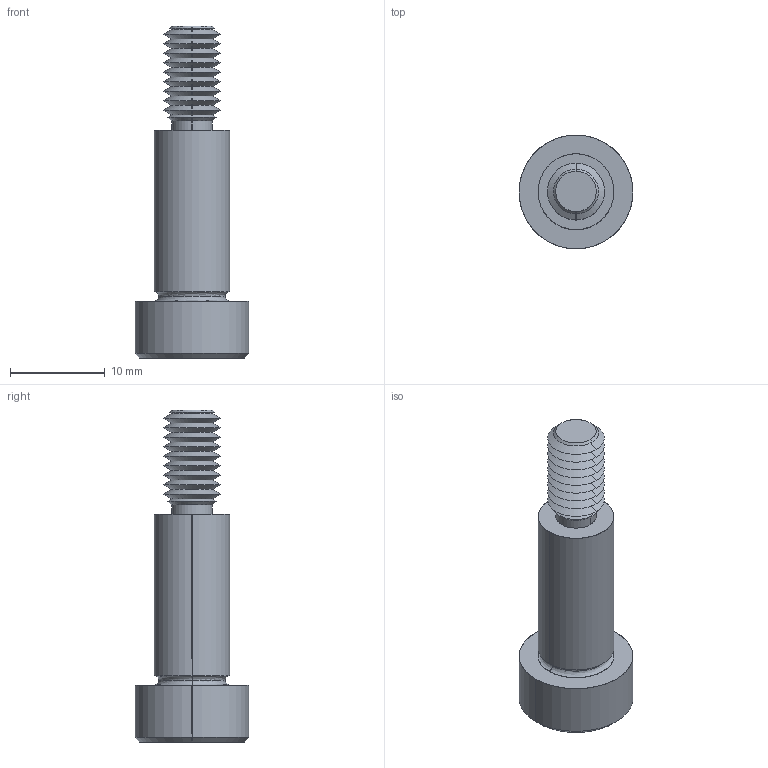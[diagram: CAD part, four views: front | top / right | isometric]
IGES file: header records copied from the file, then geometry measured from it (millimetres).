
Start section: SolidWorks IGES file using analytic representation for surfaces
Global section: file name: C:\Users\IanO\Documents\Temp Folder\GENERAL\SCREW REVISION\P0130_v2\P0130.T5_v2_20220106_IGES\P0130.080-018-T5.igs; native system: SolidWorks 2019; preprocessor: SolidWorks 2019; author: IanO; date: 220106.223345; units: millimetre
Bounding box: 12 x 12 x 35 mm (x, y, z)
Surface area: 1288.6 mm2 (no closed solid volume)
Topology: 0 solids, 0 shells, 80 faces, 580 edges, 578 vertices
Faces by surface type: revolution 60, bspline 20
